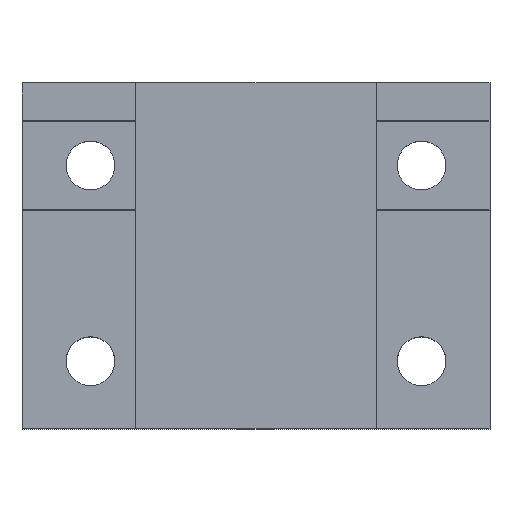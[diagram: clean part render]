
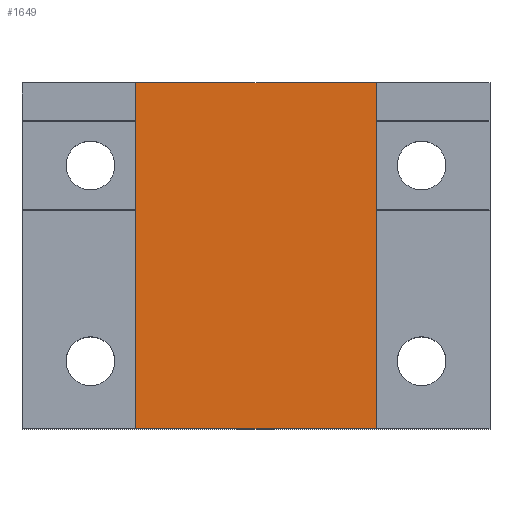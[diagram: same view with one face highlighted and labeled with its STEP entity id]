
A CAD part, top view. The second image highlights one B-rep face of the part: STEP entity #1649.
In plain terms, the highlighted planar face has unit normal (0, 0, 1).
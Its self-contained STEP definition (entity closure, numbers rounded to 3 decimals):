
#442=DIRECTION('',(0.,1.,0.));
#443=VECTOR('',#442,92.);
#444=CARTESIAN_POINT('',(32.,-46.,14.9));
#445=LINE('',#444,#443);
#478=DIRECTION('',(0.,-1.,0.));
#479=VECTOR('',#478,92.);
#480=CARTESIAN_POINT('',(-32.,46.,14.9));
#481=LINE('',#480,#479);
#506=DIRECTION('',(1.,0.,0.));
#507=VECTOR('',#506,64.);
#508=CARTESIAN_POINT('',(-32.,46.,14.9));
#509=LINE('',#508,#507);
#510=DIRECTION('',(-1.,0.,0.));
#511=VECTOR('',#510,64.);
#512=CARTESIAN_POINT('',(32.,-46.,14.9));
#513=LINE('',#512,#511);
#825=CARTESIAN_POINT('',(-32.,46.,14.9));
#826=CARTESIAN_POINT('',(32.,46.,14.9));
#827=VERTEX_POINT('',#825);
#828=VERTEX_POINT('',#826);
#829=CARTESIAN_POINT('',(-32.,-46.,14.9));
#830=VERTEX_POINT('',#829);
#831=CARTESIAN_POINT('',(32.,-46.,14.9));
#832=VERTEX_POINT('',#831);
#1637=CARTESIAN_POINT('',(32.,46.,14.9));
#1638=DIRECTION('',(0.,0.,-1.));
#1639=DIRECTION('',(-1.,0.,0.));
#1640=AXIS2_PLACEMENT_3D('',#1637,#1638,#1639);
#1641=PLANE('',#1640);
#1642=ORIENTED_EDGE('',*,*,#1609,.F.);
#1643=ORIENTED_EDGE('',*,*,#1628,.T.);
#1644=ORIENTED_EDGE('',*,*,#1538,.F.);
#1646=ORIENTED_EDGE('',*,*,#1645,.T.);
#1647=EDGE_LOOP('',(#1642,#1643,#1644,#1646));
#1648=FACE_OUTER_BOUND('',#1647,.F.);
#1649=ADVANCED_FACE('',(#1648),#1641,.F.);
#1538=EDGE_CURVE('',#832,#828,#445,.T.);
#1609=EDGE_CURVE('',#827,#830,#481,.T.);
#1628=EDGE_CURVE('',#827,#828,#509,.T.);
#1645=EDGE_CURVE('',#832,#830,#513,.T.);
